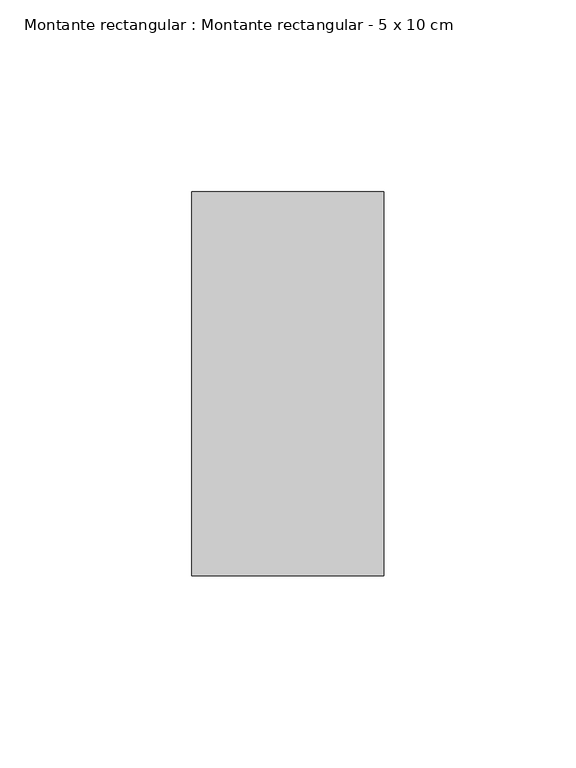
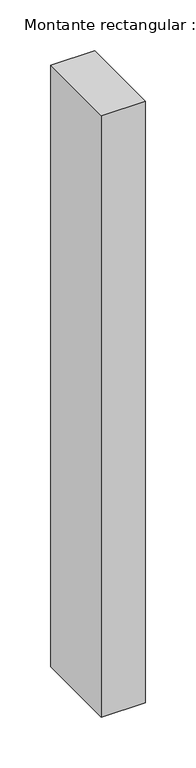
"""IFC4 building model written with IfcOpenShell, lengths in millimetres: member geometry, Montante rectangular : Montante rectangular - 5 x 10 cm."""

import ifcopenshell
import ifcopenshell.guid

model = None  # the IFC model being written
_history = None  # IfcOwnerHistory: only IFC2X3 demands one
_inside = {}  # id of a spatial element -> (the spatial element, [elements in it])
_under = {}  # id of a project, library or spatial element -> (it, [spatial elements below it])
_declared = {}  # id of a project -> (the project, [libraries it declares])
_typed = {}  # id of a type object -> (the type object, [elements of that type])
_made_of = {}  # id of a material, layer set ... -> (it, [elements and type objects made of it])


def new_model(schema):
    """Start an empty IFC model of exactly this schema.

    Asked for "IFC4X3", IfcOpenShell would pick the latest addendum, in which some entities
    have other attributes; the version numbers below select the first issue.
    IFC2X3 requires an IfcOwnerHistory on every rooted entity: one is made here for all.
    """
    global model, _history
    if schema == "IFC4X3":
        model = ifcopenshell.file(schema_version=(4, 3, 0, 0))
    else:
        model = ifcopenshell.file(schema=schema)
    _inside.clear()
    _under.clear()
    _declared.clear()
    _typed.clear()
    _made_of.clear()
    _history = None
    if model.schema == "IFC2X3":
        org = make("IfcOrganization", Name="unknown")
        user = make(
            "IfcPersonAndOrganization",
            ThePerson=make("IfcPerson", FamilyName="unknown"),
            TheOrganization=org,
        )
        app = make(
            "IfcApplication",
            ApplicationDeveloper=org,
            Version="unknown",
            ApplicationFullName="unknown",
            ApplicationIdentifier="unknown",
        )
        _history = make(
            "IfcOwnerHistory",
            OwningUser=user,
            OwningApplication=app,
            ChangeAction="ADDED",
            CreationDate=0,
        )
    return model


def make(cls, **values):
    """One entity of the class cls with the attributes given. An attribute that is None is left unset."""
    return model.create_entity(
        cls, **{name: value for name, value in values.items() if value is not None}
    )


def rooted(cls, **values):
    """An entity with a GlobalId (a new one), such as an element, a storey or a relation."""
    return make(cls, GlobalId=ifcopenshell.guid.new(), OwnerHistory=_history, **values)


def si_unit(unit_type, name, prefix=None):
    """IfcSIUnit, for example si_unit("LENGTHUNIT", "METRE", prefix="MILLI")."""
    return make("IfcSIUnit", UnitType=unit_type, Prefix=prefix, Name=name)


def assignment(units):
    """IfcUnitAssignment: the units of a project."""
    return None if units is None else make("IfcUnitAssignment", Units=units)


def point(xyz):
    """IfcCartesianPoint."""
    return None if xyz is None else make("IfcCartesianPoint", Coordinates=xyz)


def direction(xyz):
    """IfcDirection."""
    return None if xyz is None else make("IfcDirection", DirectionRatios=xyz)


def frame(location, z_axis=None, x_axis=None):
    """IfcAxis2Placement3D, a coordinate frame: its origin and axes. An axis left out is left unset."""
    return make(
        "IfcAxis2Placement3D",
        Location=point(location),
        Axis=direction(z_axis),
        RefDirection=direction(x_axis),
    )


def origin():
    """The frame at (0, 0, 0) with its axes left unset."""
    return frame((0.0, 0.0, 0.0))


def place(relative_to, where):
    """IfcLocalPlacement: puts the frame where relative to a parent placement (None: the world)."""
    return make(
        "IfcLocalPlacement", PlacementRelTo=relative_to, RelativePlacement=where
    )


def context(
    kind, dimensions, precision=None, world=None, true_north=None, identifier=None
):
    """IfcGeometricRepresentationContext, for example the 3D "Model" context."""
    return make(
        "IfcGeometricRepresentationContext",
        ContextIdentifier=identifier,
        ContextType=kind,
        CoordinateSpaceDimension=dimensions,
        Precision=precision,
        WorldCoordinateSystem=world,
        TrueNorth=true_north,
    )


def project(units=None, contexts=None):
    """IfcProject with its units and contexts."""
    return rooted(
        "IfcProject",
        Name="project",
        RepresentationContexts=contexts,
        UnitsInContext=assignment(units),
    )


def spatial(cls, under=None, at=None, **own):
    """A site, building, storey or space (cls), placed at a placement, below another one or the project."""
    s = rooted(cls, ObjectPlacement=at, **own)
    if under is not None:
        _under.setdefault(under.id(), (under, []))[1].append(s)
    return s


def polyline(points):
    """IfcPolyline through the points."""
    return make("IfcPolyline", Points=[point(p) for p in points])


def outline(outer, holes=None, kind="AREA"):
    """IfcArbitraryClosedProfileDef: a profile drawn as a closed curve; with holes, ...WithVoids."""
    if holes is None:
        return make("IfcArbitraryClosedProfileDef", ProfileType=kind, OuterCurve=outer)
    return make(
        "IfcArbitraryProfileDefWithVoids",
        ProfileType=kind,
        OuterCurve=outer,
        InnerCurves=holes,
    )


def extrude(swept, where, along, depth):
    """IfcExtrudedAreaSolid: the profile swept, set in the frame where, extruded along a direction by depth."""
    return make(
        "IfcExtrudedAreaSolid",
        SweptArea=swept,
        Position=where,
        ExtrudedDirection=direction(along),
        Depth=depth,
    )


def shape(context_of_items, identifier, shape_type, items):
    """IfcShapeRepresentation: the items that make up one representation, for example the "Body"."""
    return make(
        "IfcShapeRepresentation",
        ContextOfItems=context_of_items,
        RepresentationIdentifier=identifier,
        RepresentationType=shape_type,
        Items=items,
    )


def source(mapping_origin, context_of_items, identifier, shape_type, items):
    """IfcRepresentationMap: a shape defined once, which mapped items show again and again."""
    return make(
        "IfcRepresentationMap",
        MappingOrigin=mapping_origin,
        MappedRepresentation=shape(context_of_items, identifier, shape_type, items),
    )


def transform(
    local_origin,
    x_axis=None,
    y_axis=None,
    z_axis=None,
    scale=None,
    scale2=None,
    scale3=None,
    uniform=True,
):
    """IfcCartesianTransformationOperator3D, or its non-uniform kind. x_axis, y_axis, z_axis: its Axis1, 2, 3."""
    if uniform:
        return make(
            "IfcCartesianTransformationOperator3D",
            Axis1=direction(x_axis),
            Axis2=direction(y_axis),
            LocalOrigin=point(local_origin),
            Scale=scale,
            Axis3=direction(z_axis),
        )
    return make(
        "IfcCartesianTransformationOperator3DnonUniform",
        Axis1=direction(x_axis),
        Axis2=direction(y_axis),
        LocalOrigin=point(local_origin),
        Scale=scale,
        Axis3=direction(z_axis),
        Scale2=scale2,
        Scale3=scale3,
    )


def mapped(mapping_source, mapping_target):
    """IfcMappedItem: shows the shape of a source again, moved by a transform."""
    return make(
        "IfcMappedItem", MappingSource=mapping_source, MappingTarget=mapping_target
    )


def made_of(thing, what):
    """Note that an element or type object is made of a material, layer set ...; save() writes the relation."""
    if what is not None:
        _made_of.setdefault(what.id(), (what, []))[1].append(thing)
    return thing


def element(
    cls,
    number,
    at=None,
    inside=None,
    cuts=None,
    type_object=None,
    material=None,
    context=None,
    identifier="Body",
    shape_type=None,
    held_by="IfcProductDefinitionShape",
    body=None,
    shapes=None,
    **own,
):
    """One element of the class cls, such as IfcWall. Its Tag is "e" and its number.

    at: its placement. inside: the storey or other place that contains it. cuts: it is an
    opening in that element (IfcRelVoidsElement). A single representation is given by context,
    identifier, shape_type and body (its items); several are given by shapes. held_by: the class
    of the entity that holds the representations. save() writes the other relations.
    """
    e = rooted(cls, Tag="e%d" % number, ObjectPlacement=at, **own)
    if body is not None:
        shapes = [shape(context, identifier, shape_type, body)]
    if shapes is not None:
        e.Representation = make(held_by, Representations=shapes)
    if inside is not None:
        _inside.setdefault(inside.id(), (inside, []))[1].append(e)
    if cuts is not None:
        rooted(
            "IfcRelVoidsElement", RelatingBuildingElement=cuts, RelatedOpeningElement=e
        )
    if type_object is not None:
        _typed.setdefault(type_object.id(), (type_object, []))[1].append(e)
    return made_of(e, material)


def aggregate(whole, parts):
    """IfcRelAggregates: a whole, such as a stair, and the parts it consists of."""
    return rooted("IfcRelAggregates", RelatingObject=whole, RelatedObjects=parts)


def save(model, path):
    """Write the relations noted so far, then the file.

    IfcRelAggregates (storeys below a building ...), IfcRelContainedInSpatialStructure (elements
    in a storey), IfcRelDefinesByType, IfcRelAssociatesMaterial and IfcRelDeclares: one each for
    every whole, place, type object, material and project.
    """
    for whole, parts in _under.values():
        aggregate(whole, parts)
    for where, things in _inside.values():
        rooted(
            "IfcRelContainedInSpatialStructure",
            RelatedElements=things,
            RelatingStructure=where,
        )
    for kind, things in _typed.values():
        rooted("IfcRelDefinesByType", RelatedObjects=things, RelatingType=kind)
    for what, things in _made_of.values():
        rooted("IfcRelAssociatesMaterial", RelatedObjects=things, RelatingMaterial=what)
    for by, libraries in _declared.values():
        rooted("IfcRelDeclares", RelatingContext=by, RelatedDefinitions=libraries)
    model.write(path)


def montante_rectangular_montante_rectangular_5_x_10_cm_2b88942f(model_context):
    return source(origin(), model_context, "Body", "SweptSolid", [
        extrude(outline(polyline([(25.0, 50.0), (25.0, -50.0), (-25.0, -50.0), (-25.0, 50.0), (25.0, 50.0)])), frame((0.0, 0.0, -725.0), z_axis=(0.0, 0.0, 1.0), x_axis=(1.0, 0.0, 0.0)), (0.0, 0.0, 1.0), 725.0),
    ])


if __name__ == "__main__":
    model = new_model("IFC4")
    model_context = context("Model", 3, world=origin())
    ifc_project = project(units=[si_unit("LENGTHUNIT", "METRE", prefix="MILLI")], contexts=[model_context])
    site = spatial("IfcSite", under=ifc_project)
    building = spatial("IfcBuilding", under=site)
    placement = place(None, origin())
    montante_rectangular_montante_rectangular_5_x_10_cm_shape = montante_rectangular_montante_rectangular_5_x_10_cm_2b88942f(model_context)
    element("IfcMember", 1, ObjectType="Montante rectangular : Montante rectangular - 5 x 10 cm", at=placement, inside=building, context=model_context, shape_type="MappedRepresentation", body=[
        mapped(montante_rectangular_montante_rectangular_5_x_10_cm_shape, transform((0.0, 0.0, 0.0), x_axis=(1.0, 0.0, 0.0), y_axis=(0.0, 1.0, 0.0), z_axis=(0.0, 0.0, 1.0))),
    ])
    save(model, "model.ifc")
